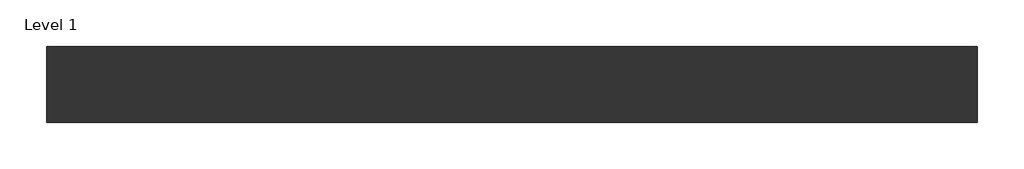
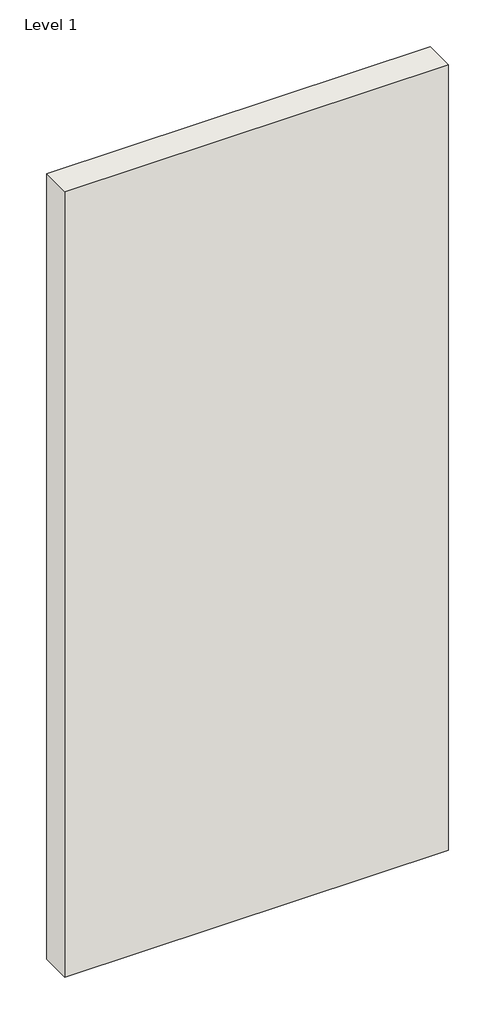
# One storey: 1 wall.
"""IFC4 building model written with IfcOpenShell, lengths in millimetres."""

from ifc_helpers import new_model, si_unit, origin, origin_with_axes, place, context, project, spatial, polyline, outline, extrude, element, save

model = new_model("IFC4")

# Units and contexts
model_context = context("Model", 3, world=origin())
ifc_project = project(units=[si_unit("LENGTHUNIT", "METRE", prefix="MILLI")], contexts=[model_context])

# Site, building, storey
site = spatial("IfcSite", under=ifc_project)
building = spatial("IfcBuilding", under=site)
storey = spatial("IfcBuildingStorey", under=building, Name="Level 1", Elevation=0.0)

# Wall
placement = place(None, origin())
element("IfcWall", 1, ObjectType="Tabique Simple – Placo® 98(48) 2xBA13 + 48LM + 2xBA13 c/400 - 51,9 dBA", at=placement, inside=storey, context=model_context, shape_type="SweptSolid", body=[
    extrude(outline(polyline([(-27296.4711674, -79774.3970389), (-28496.4711674, -79774.3970389), (-28496.4711674, -79676.3970389), (-27296.4711674, -79676.3970389), (-27296.4711674, -79774.3970389)])), origin_with_axes(), (0.0, 0.0, 1.0), 2600.0),
])

save(model, "model.ifc")
